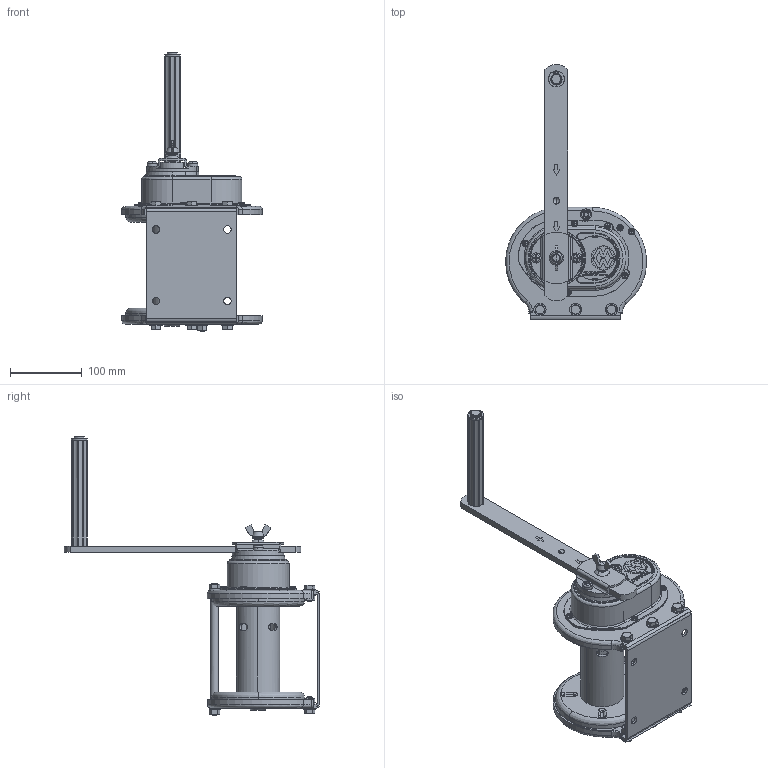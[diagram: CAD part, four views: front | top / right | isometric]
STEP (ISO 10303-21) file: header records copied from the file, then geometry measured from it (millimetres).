
FILE_DESCRIPTION( (''), '2;1');
FILE_NAME ('GM-1-SIC.stp','2023-12-21T16:53:56',(''),(''),'spGate 19.8.2 (****-****-****-****)','','');
FILE_SCHEMA (('AUTOMOTIVE_DESIGN'));
Length unit declared in the file: millimetre
Products named in the file (3): Assembly; GM-1-SIC-prt0; GM-1-SIC-prt1
Assembly tree (2 placements, depth 2):
  Assembly
    GM-1-SIC-prt0
    GM-1-SIC-prt1
Bounding box: 196.82 x 356.93 x 389.8 mm (x, y, z)
Volume: 988590.6 mm3; surface area: 436293.6 mm2
Topology: 2 solids, 2 shells, 2231 faces, 5840 edges, 3680 vertices
Faces by surface type: plane 1053, cylinder 761, bspline 355, sphere 62
Entity records: 120312 total; most frequent: CARTESIAN_POINT 21491, ORIENTED_EDGE 11556, DIRECTION 10628, COLOUR_RGB 8011, PRESENTATION_STYLE_ASSIGNMENT 8011, STYLED_ITEM 8011, EDGE_CURVE 5778, DRAUGHTING_PRE_DEFINED_CURVE_FONT 5778
